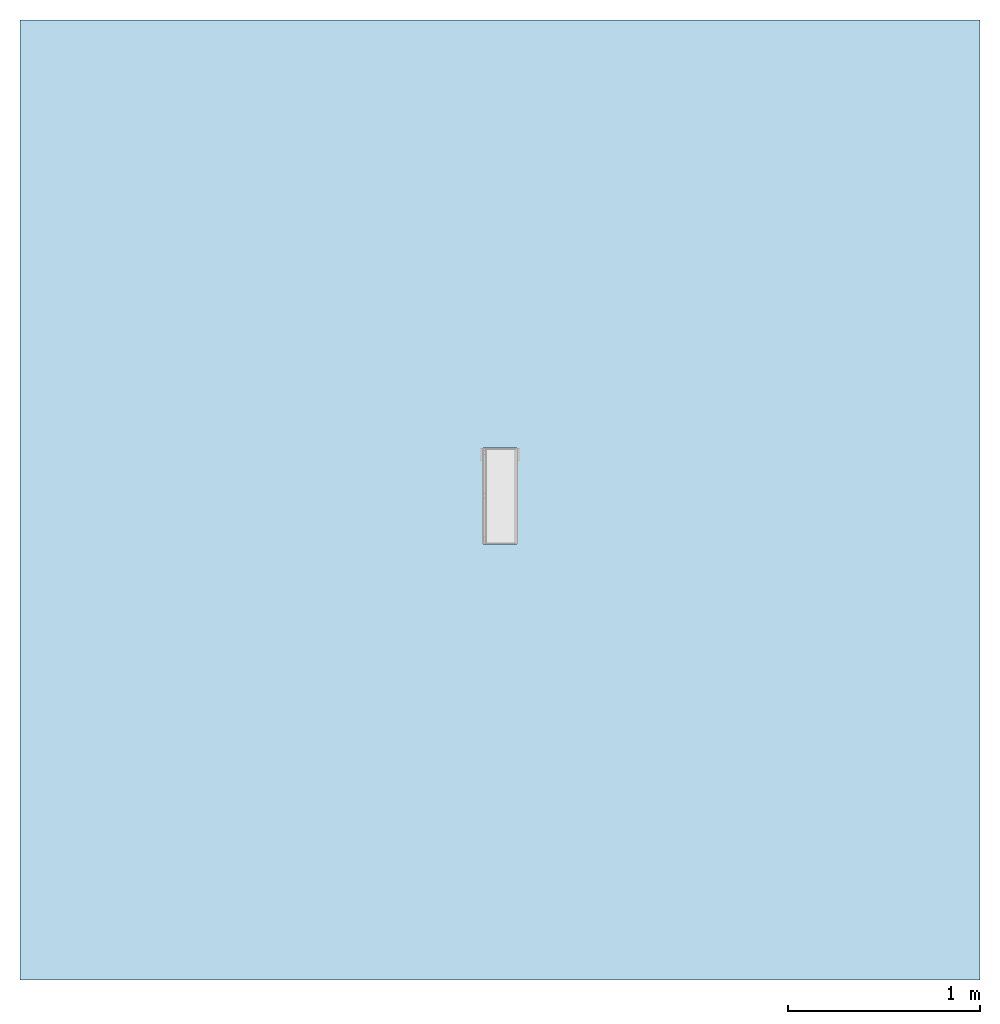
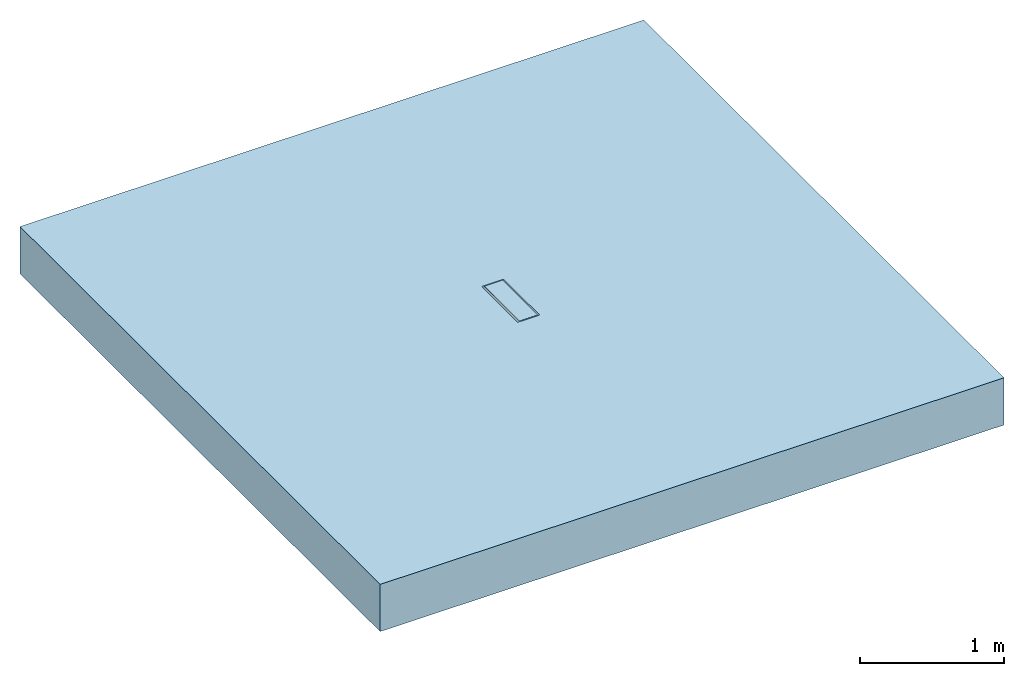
# One storey, incomplete: 1 slab, 2 openings.
"""IFC2X3 building model written with IfcOpenShell, lengths in millimetres."""

from ifc_helpers import new_model, entity, si_unit, converted_unit, direction, frame, frame_2d, origin, origin_2d_with_axis, place, context, subcontext, project, spatial, rectangle, extrude, faceted_brep, material, layer, layer_set, layer_usage, element, save


model = new_model("IFC2X3")

# Units and contexts
model_context = context("Model", 3, precision=1e-06, world=origin(), true_north=direction((2.0, 6.12303176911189e-17, 1.0)))
context_of_model = context(None, 3, precision=1e-06, world=origin(), true_north=direction((2.0, 6.12303176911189e-17, 1.0)))
body_context = subcontext(model_context, "Body", "Model", "MODEL_VIEW")
ifc_project = project(units=[si_unit("LENGTHUNIT", "METRE", prefix="MILLI"), si_unit("AREAUNIT", "SQUARE_METRE", prefix="MILLI"), si_unit("VOLUMEUNIT", "CUBIC_METRE", prefix="MILLI"), converted_unit("PLANEANGLEUNIT", "DEGREE", entity("IfcRatioMeasure", 0.0174532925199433), si_unit("PLANEANGLEUNIT", "RADIAN"), dimensions=[0, 0, 0, 0, 0, 0, 0]), si_unit("TIMEUNIT", "SECOND")], contexts=[model_context, context_of_model])

# Site, building, storey
site_placement = place(None, origin())
site = spatial("IfcSite", under=ifc_project, at=site_placement, Name="Default", CompositionType="ELEMENT")
building_placement = place(site_placement, origin())
building = spatial("IfcBuilding", under=site, at=building_placement, CompositionType="ELEMENT")
storey_placement = place(building_placement, origin())
storey = spatial("IfcBuildingStorey", under=building, at=storey_placement, Name="Level 1", CompositionType="ELEMENT", Elevation=0.0)

# Slab, openings
ifc_material = material(Name="Earth")
ifc_layer = layer(ifc_material, 400.0)
ifc_layer_set = layer_set([ifc_layer], Name="Floor:Generic Floor - 400mm")
ifc_layer_usage = layer_usage(ifc_layer_set, "AXIS3", "POSITIVE", 0.0)
slab_placement = place(storey_placement, origin())
slab = element("IfcSlab", 1, at=slab_placement, inside=storey, material=ifc_layer_usage, Name="Floor:Generic Floor - 400mm", ObjectType="Floor:Generic Floor - 400mm", PredefinedType="FLOOR", context=body_context, shape_type="SweptSolid", body=[
    extrude(rectangle(XDim=5000.0, YDim=5000.0, at=frame_2d((0.0, 0.0), x_axis=(0.0, -1.0))), frame((0.0, 0.0, 0.0), z_axis=(0.0, 0.0, -1.0), x_axis=(-1.0, 0.0, 0.0)), (0.0, 0.0, 1.0), 400.0),
])
opening_1_placement = place(slab_placement, origin())
element("IfcOpeningElement", 2, at=opening_1_placement, cuts=slab, ObjectType="Opening", context=body_context, shape_type="SweptSolid", body=[
    extrude(rectangle(XDim=18.0000000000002, YDim=500.0, at=origin_2d_with_axis()), frame((-79.2479575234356, 20.0, -6605.0), z_axis=(0.0, 0.0, 1.0), x_axis=(-1.0, 0.0, 0.0)), (0.0, 0.0, 1.0), 105.0),
])
opening_2_placement = place(slab_placement, origin())
element("IfcOpeningElement", 3, at=opening_2_placement, cuts=slab, ObjectType="Opening", context=body_context, shape_type="Brep", body=[
    faceted_brep([(92.5000000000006, 270.0, -105.0), (92.5000000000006, -230.0, -105.0), (88.2500000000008, -230.0, -105.0), (88.2500000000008, 270.0, -105.0), (-92.4999999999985, 270.0, -105.0), (-88.2479575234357, -230.0, -105.0), (-92.4999999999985, -230.0, -105.0), (-88.2479575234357, 270.0, -105.0), (78.2500000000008, 264.0, -105.0), (78.2500000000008, -224.0, -105.0), (-70.2479575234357, -224.0, -105.0), (-70.2479575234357, 264.0, -105.0), (92.5000000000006, 270.0, -840.0), (88.2500000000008, 270.0, 0.0), (-92.4999999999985, 270.0, -840.0), (-88.2479575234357, 270.0, 0.0), (-92.4999999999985, -230.0, -840.0), (92.5000000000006, -230.0, -840.0), (-88.2479575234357, -230.0, 0.0), (88.2500000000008, -230.0, 0.0), (78.2500000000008, 264.0, 0.0), (-70.2479575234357, 264.0, 0.0), (-70.2479575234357, -224.0, 0.0), (78.2500000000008, -224.0, 0.0)], [[[0, 1, 2]], [[2, 3, 0]], [[4, 5, 6]], [[5, 4, 7]], [[8, 9, 10]], [[10, 11, 8]], [[0, 3, 12]], [[7, 12, 3]], [[13, 7, 3]], [[4, 14, 7]], [[12, 7, 14]], [[13, 15, 7]], [[6, 5, 16]], [[17, 16, 5]], [[18, 2, 5]], [[1, 17, 2]], [[5, 2, 17]], [[18, 19, 2]], [[12, 16, 17]], [[16, 12, 14]], [[12, 17, 1]], [[1, 0, 12]], [[4, 6, 16]], [[16, 14, 4]], [[19, 20, 13]], [[21, 13, 20]], [[22, 23, 19]], [[20, 19, 23]], [[18, 15, 21]], [[13, 21, 15]], [[19, 18, 22]], [[21, 22, 18]], [[7, 15, 18]], [[18, 5, 7]], [[3, 19, 13]], [[19, 3, 2]], [[9, 20, 23]], [[20, 9, 8]], [[10, 23, 22]], [[23, 10, 9]], [[11, 22, 21]], [[22, 11, 10]], [[8, 21, 20]], [[21, 8, 11]]]),
])

save(model, "model.ifc")
